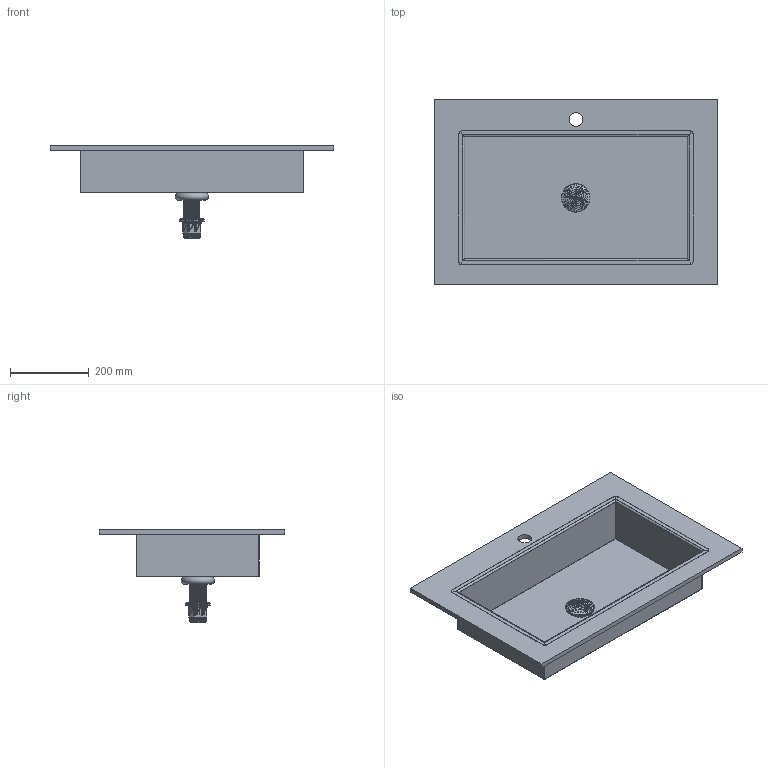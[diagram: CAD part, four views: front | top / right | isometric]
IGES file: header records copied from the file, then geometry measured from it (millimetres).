
Start section: Data from Parasolid IGES Translator 19.0.9, Copyright(c) 2006 Siemens PL M Software. All Rights Reserved.
Global section: file name: noorth-top-H 1,2 D 47,3 W 72_6556.igs; native system: By Siemens PLM Incorporated; preprocessor: XPlus GENERIC/IGES 19.0.9; author: Noname; organization: Noname; date: 20200603.104413; units: metre
Bounding box: 720 x 472 x 235.2 mm (x, y, z)
Volume: 2022207 mm3; surface area: 1213450 mm2
Topology: 2 solids, 2 shells, 11732 faces, 35117 edges, 35007 vertices
Faces by surface type: extrusion 11618, plane 60, cylinder 28, bspline 20, torus 4, cone 2
Full cylindrical faces by diameter (mm): 34.9 x1, 42 x1, 46 x1, 47.6 x1
